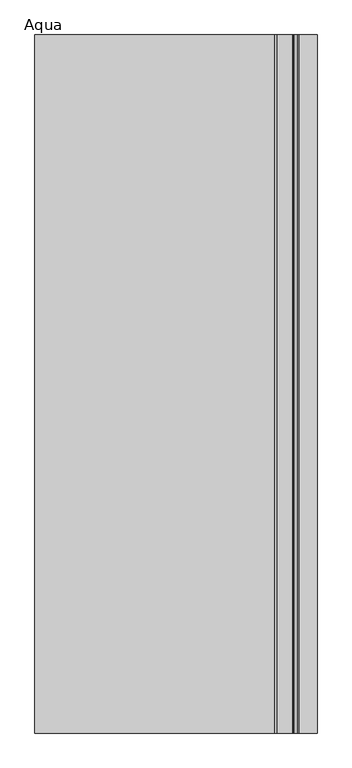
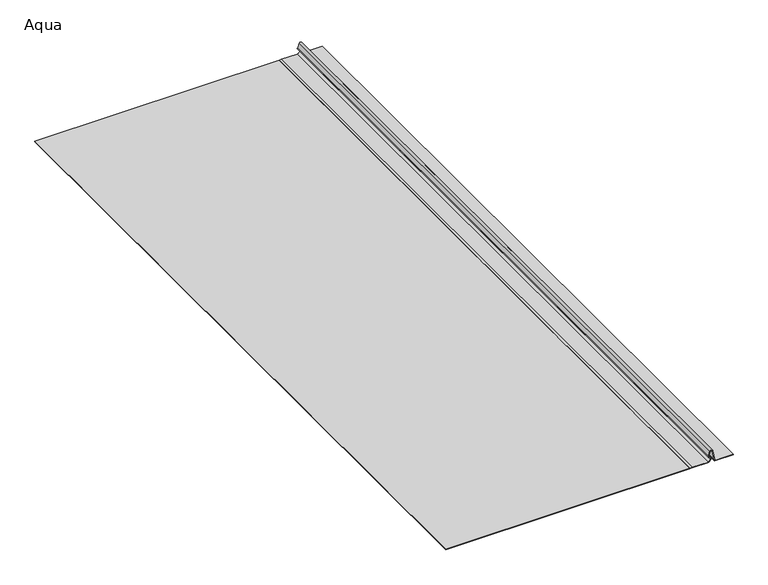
"""IFC4 building model written with IfcOpenShell, lengths in millimetres: proxy geometry, AQUAPLAST - Panel Dachowy i Elewacyjny Aqua : Aqua."""

from ifc_helpers import new_model, si_unit, point, frame, frame_2d, origin, origin_with_axes, place, context, project, spatial, polyline, circle_curve, trimmed, segment, composite_curve, outline, extrude, source, transform, mapped, element, save


def aqua_a7d501b8(model_context):
    return source(origin(), model_context, "Body", "SweptSolid", [
        extrude(outline(composite_curve([segment(polyline([(0.8, 270.9), (0.8, 240.520912)]), True, "CONTINUOUS"), segment(trimmed(circle_curve(frame_2d((1.4640676, 240.520912)), 0.6640676), [point((0.8, 240.520912))], [point((1.3501315, 239.8666916))], True, "CARTESIAN"), True, "CONTINUOUS"), segment(polyline([(1.3501315, 239.8666916), (18.7653554, 236.8337349)]), True, "CONTINUOUS"), segment(trimmed(circle_curve(frame_2d((18.1818617, 234.1906389)), 2.7067363), [point((18.7653554, 236.8337349))], [point((19.5352298, 231.8465366))], False, "CARTESIAN"), True, "CONTINUOUS"), segment(polyline([(19.5352298, 231.8465366), (12.1941629, 228.8862764)]), True, "CONTINUOUS"), segment(trimmed(circle_curve(frame_2d((11.2676679, 231.1838657)), 2.4773594), [point((12.1941629, 228.8862764))], [point((9.0024093, 230.1809133))], False, "CARTESIAN"), True, "CONTINUOUS"), segment(trimmed(circle_curve(frame_2d((5.4667311, 228.6154775)), 3.8667311), [point((9.0024093, 230.1809133))], [point((1.6, 228.6154775))], True, "CARTESIAN"), True, "CONTINUOUS"), segment(polyline([(1.6, 228.6154775), (1.6, 201.7000503), (0.8, 198.2000503), (0.0, 198.2000503), (0.8, 201.7000503), (0.8, 228.4563021)]), True, "CONTINUOUS"), segment(trimmed(circle_curve(frame_2d((5.5014361, 228.4563021)), 4.7014361), [point((0.8, 228.4563021))], [point((9.7513874, 230.4666293))], False, "CARTESIAN"), True, "CONTINUOUS"), segment(trimmed(circle_curve(frame_2d((11.2676679, 231.1838657)), 1.6773594), [point((9.7513874, 230.4666293))], [point((11.8934079, 229.6275932))], True, "CARTESIAN"), True, "CONTINUOUS"), segment(polyline([(11.8934079, 229.6275932), (19.1352298, 232.5393569)]), True, "CONTINUOUS"), segment(trimmed(circle_curve(frame_2d((18.1818617, 234.1906389)), 1.9067363), [point((19.1352298, 232.5393569))], [point((18.4803326, 236.0738697))], True, "CARTESIAN"), True, "CONTINUOUS"), segment(polyline([(18.4803326, 236.0738697), (0.6241817, 238.9038691)]), True, "CONTINUOUS"), segment(trimmed(circle_curve(frame_2d((0.7400208, 239.6347673)), 0.7400208), [point((0.6241817, 238.9038691))], [point((0.0, 239.6347673))], False, "CARTESIAN"), True, "CONTINUOUS"), segment(polyline([(0.0, 239.6347673), (0.0, 270.9), (0.8, 270.9)]), True, "CONTINUOUS")], self_intersect=False)), frame((0.0, 0.0, 0.0), z_axis=(0.0, 1.0, 0.0), x_axis=(0.0, 0.0, 1.0)), (0.0, 0.0, 1.0), 1200.0),
        extrude(outline(polyline([(198.2000503, 1200.0), (198.2000503, 0.0), (-214.1, 0.0), (-214.1, 1200.0), (198.2000503, 1200.0)])), origin_with_axes(), (0.0, 0.0, 1.0), 0.8),
    ])


if __name__ == "__main__":
    model = new_model("IFC4")
    model_context = context("Model", 3, world=origin())
    ifc_project = project(units=[si_unit("LENGTHUNIT", "METRE", prefix="MILLI")], contexts=[model_context])
    site = spatial("IfcSite", under=ifc_project)
    building = spatial("IfcBuilding", under=site)
    placement = place(None, origin())
    aqua_shape = aqua_a7d501b8(model_context)
    element("IfcBuildingElementProxy", 1, Name="AQUAPLAST - Panel Dachowy i Elewacyjny Aqua : Aqua", ObjectType="AQUAPLAST - Panel Dachowy i Elewacyjny Aqua : Aqua", at=placement, inside=building, context=model_context, shape_type="MappedRepresentation", body=[
        mapped(aqua_shape, transform((0.0, 0.0, 0.0), x_axis=(1.0, 0.0, 0.0), y_axis=(0.0, 1.0, 0.0), z_axis=(0.0, 0.0, 1.0))),
    ])
    save(model, "model.ifc")
